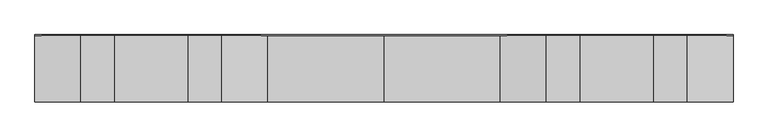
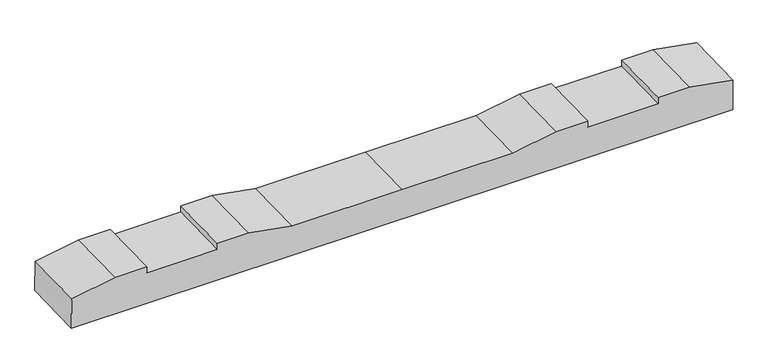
"""IFC4 building model written with IfcOpenShell, lengths in millimetres: proxy geometry, 轨枕-立面角度 : 轨枕-立面角度."""

from ifc_helpers import new_model, si_unit, frame, origin, place, context, project, spatial, polyline, outline, extrude, source, transform, mapped, element, save


def generic_models_031e3dbe(model_context):
    return source(origin(), model_context, "Body", "SweptSolid", [
        extrude(outline(polyline([(0.0, 0.0), (2099.7669328, 0.0), (2099.7669328, -100.020689), (1961.8834664, -124.5), (1861.8834664, -124.5), (1861.8834664, -104.5), (1637.8834664, -104.5), (1637.8834664, -124.5), (1537.8834664, -124.5), (1399.8834664, -100.0), (1049.8834664, -100.0), (699.8834664, -100.0), (561.8834664, -124.5), (461.8834664, -124.5), (461.8834664, -104.5), (237.8834664, -104.5), (237.8834664, -124.5), (137.8834664, -124.5), (0.0, -100.020689), (0.0, 0.0)])), frame((-1049.8834664, -97.4107253, -106.9177282), z_axis=(0.0, 0.9997000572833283, 0.02449072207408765), x_axis=(1.0, 0.0, 0.0)), (0.0, 0.0, 1.0), 200.0),
    ])


if __name__ == "__main__":
    model = new_model("IFC4")
    model_context = context("Model", 3, world=origin())
    ifc_project = project(units=[si_unit("LENGTHUNIT", "METRE", prefix="MILLI")], contexts=[model_context])
    site = spatial("IfcSite", under=ifc_project)
    building = spatial("IfcBuilding", under=site)
    placement = place(None, origin())
    generic_models_shape = generic_models_031e3dbe(model_context)
    element("IfcBuildingElementProxy", 1, Name="轨枕-立面角度 : 轨枕-立面角度", ObjectType="轨枕-立面角度 : 轨枕-立面角度", at=placement, inside=building, context=model_context, shape_type="MappedRepresentation", body=[
        mapped(generic_models_shape, transform((0.0, 0.0, 0.0), x_axis=(1.0, 0.0, 0.0), y_axis=(0.0, 1.0, 0.0), z_axis=(0.0, 0.0, 1.0))),
    ])
    save(model, "model.ifc")
